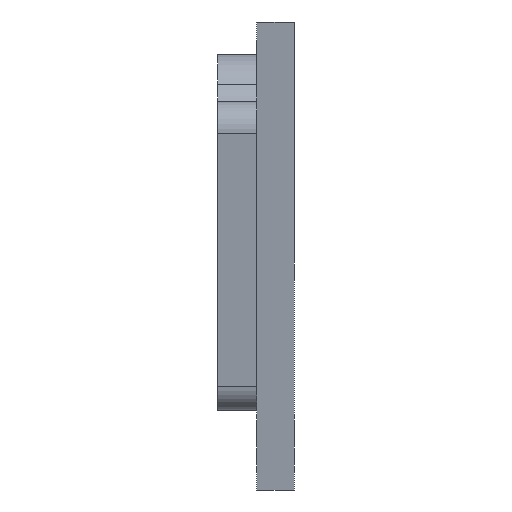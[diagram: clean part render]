
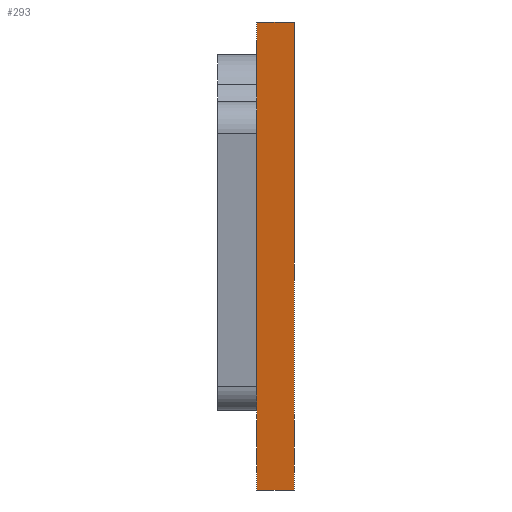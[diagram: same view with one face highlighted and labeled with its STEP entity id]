
A CAD part, left-side view. The second image highlights one B-rep face of the part: STEP entity #293.
In plain terms, the highlighted planar face has unit normal (-0.99, 0, -0.139).
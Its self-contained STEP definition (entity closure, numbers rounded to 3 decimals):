
#181 = CARTESIAN_POINT ( 'NONE',  ( -20.411, -4.75, -25. ) ) ;
#189 = CARTESIAN_POINT ( 'NONE',  ( -27.439, -8.75, 25. ) ) ;
#293 = ADVANCED_FACE ( 'NONE', ( #876 ), #2323, .T. ) ;
#295 = VERTEX_POINT ( 'NONE', #1511 ) ;
#543 = VERTEX_POINT ( 'NONE', #181 ) ;
#572 = CARTESIAN_POINT ( 'NONE',  ( -20.411, -8.75, -25. ) ) ;
#670 = LINE ( 'NONE', #189, #2838 ) ;
#876 = FACE_OUTER_BOUND ( 'NONE', #4209, .T. ) ;
#953 = VECTOR ( 'NONE', #2649, 1000. ) ;
#983 = EDGE_CURVE ( 'NONE', #3164, #1068, #6006, .T. ) ;
#1068 = VERTEX_POINT ( 'NONE', #5780 ) ;
#1511 = CARTESIAN_POINT ( 'NONE',  ( -27.439, -4.75, 25. ) ) ;
#1769 = ORIENTED_EDGE ( 'NONE', *, *, #6363, .F. ) ;
#2323 = PLANE ( 'NONE',  #2841 ) ;
#2428 = VECTOR ( 'NONE', #4913, 1000. ) ;
#2649 = DIRECTION ( 'NONE',  ( -0.139, 0., 0.99 ) ) ;
#2695 = DIRECTION ( 'NONE',  ( 0., 1., 0. ) ) ;
#2838 = VECTOR ( 'NONE', #2695, 1000. ) ;
#2841 = AXIS2_PLACEMENT_3D ( 'NONE', #3955, #5561, #6073 ) ;
#3022 = EDGE_CURVE ( 'NONE', #1068, #295, #670, .T. ) ;
#3108 = DIRECTION ( 'NONE',  ( 0., 1., 0. ) ) ;
#3140 = LINE ( 'NONE', #5165, #953 ) ;
#3164 = VERTEX_POINT ( 'NONE', #572 ) ;
#3645 = LINE ( 'NONE', #4709, #5652 ) ;
#3955 = CARTESIAN_POINT ( 'NONE',  ( -27.439, -8.75, 25. ) ) ;
#4119 = EDGE_CURVE ( 'NONE', #543, #295, #3140, .T. ) ;
#4209 = EDGE_LOOP ( 'NONE', ( #6136, #1769, #5534, #6348 ) ) ;
#4709 = CARTESIAN_POINT ( 'NONE',  ( -20.411, -8.75, -25. ) ) ;
#4913 = DIRECTION ( 'NONE',  ( -0.139, 0., 0.99 ) ) ;
#5165 = CARTESIAN_POINT ( 'NONE',  ( -27.439, -4.75, 25. ) ) ;
#5492 = CARTESIAN_POINT ( 'NONE',  ( -27.439, -8.75, 25. ) ) ;
#5534 = ORIENTED_EDGE ( 'NONE', *, *, #983, .T. ) ;
#5561 = DIRECTION ( 'NONE',  ( -0.99, 0., -0.139 ) ) ;
#5652 = VECTOR ( 'NONE', #3108, 1000. ) ;
#5780 = CARTESIAN_POINT ( 'NONE',  ( -27.439, -8.75, 25. ) ) ;
#6006 = LINE ( 'NONE', #5492, #2428 ) ;
#6073 = DIRECTION ( 'NONE',  ( -0.139, 0., 0.99 ) ) ;
#6136 = ORIENTED_EDGE ( 'NONE', *, *, #4119, .F. ) ;
#6348 = ORIENTED_EDGE ( 'NONE', *, *, #3022, .T. ) ;
#6363 = EDGE_CURVE ( 'NONE', #3164, #543, #3645, .T. ) ;
